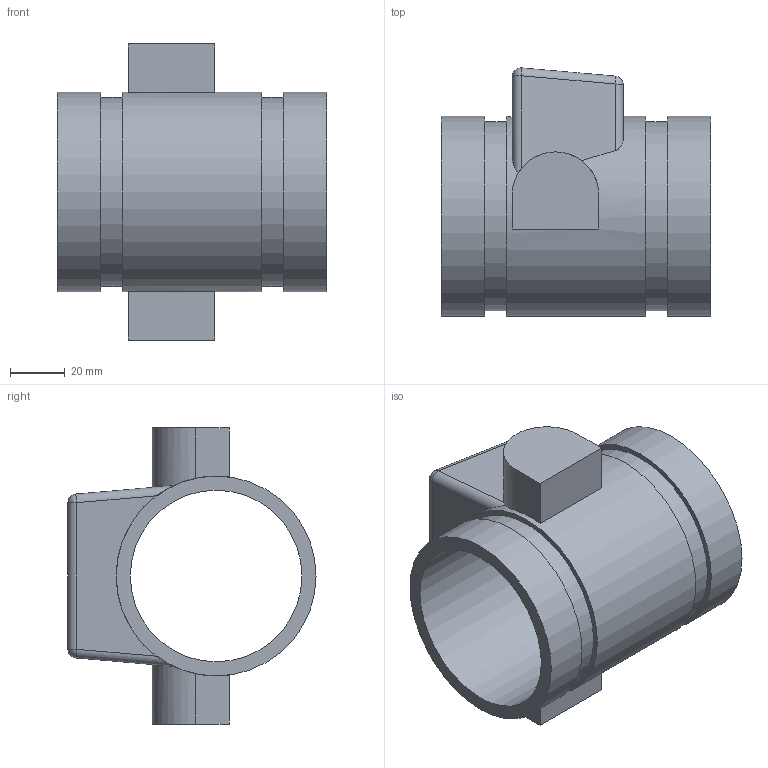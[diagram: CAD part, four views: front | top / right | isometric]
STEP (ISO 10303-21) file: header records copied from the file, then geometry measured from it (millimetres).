
FILE_DESCRIPTION(/* description */ ('VIC FIRELOCK CHECK VALVE SERIES 717','CAx-IF Rec.Pracs.---Representation and Presentation of Product Manufacturing Information (PMI)---4.0---2014-10-13'),/* implementation_level */ '2;1');
FILE_NAME(/* name */ 'C:\Users\Vjadhav\AppData\Roaming\Autodesk\ApplicationPlugins\Back Up\Victaulic_FP-FireLock_Valve Check_Series 717 (OGS)\Victaulic_FP-FireLock_Valve Check_2.5 (65).stp',/* time_stamp */ '2020-07-17T15:00:29+06:00',/* author */ ('kkamble'),/* organization */ ('Victaulic'),/* preprocessor_version */ 'ST-DEVELOPER v17.2',/* originating_system */ 'Autodesk Inventor 2019',/* authorisation */ '');
FILE_SCHEMA (('AP242_MANAGED_MODEL_BASED_3D_ENGINEERING_MIM_LF { 1 0 10303 442 1 1 4 }'));
Length unit declared in the file: inch
Products named in the file (2): 717-02.5; 717 - 02.5
Assembly tree (1 placements, depth 2):
  717-02.5
    717 - 02.5
Bounding box: 98.55 x 90.67 x 108.2 mm (x, y, z)
Volume: 180223 mm3; surface area: 56352.2 mm2
Topology: 1 solids, 1 shells, 40 faces, 101 edges, 68 vertices
Faces by surface type: plane 19, cylinder 16, sphere 4, cone 1
Full cylindrical faces by diameter (mm): 62.713 x1, 69.088 x2, 73.025 x3
Entity records: 1418 total; most frequent: CARTESIAN_POINT 315, DIRECTION 220, ORIENTED_EDGE 202, EDGE_CURVE 101, AXIS2_PLACEMENT_3D 91, VERTEX_POINT 68, EDGE_LOOP 47, CIRCLE 45
